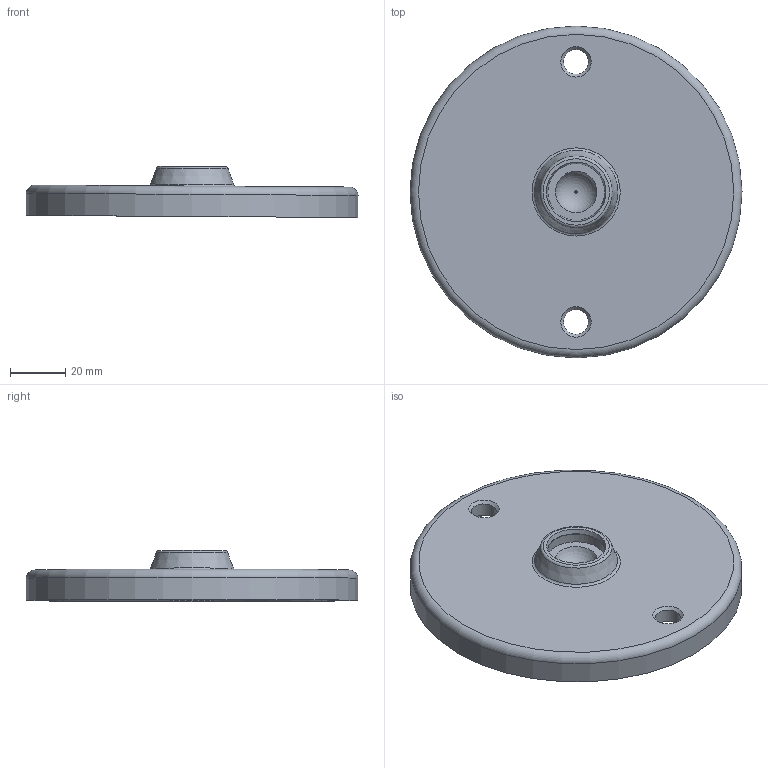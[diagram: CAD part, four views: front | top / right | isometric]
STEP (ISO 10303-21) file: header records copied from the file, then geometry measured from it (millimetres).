
FILE_DESCRIPTION(('STEP AP203'), '1');
FILE_NAME('À00016.6120', '', ('UNSPECIFIED'), ('UNSPECIFIED'), 'C3D Converter', 'C3D Toolkit', '');
FILE_SCHEMA(('CONFIG_CONTROL_DESIGN'));
Length unit declared in the file: millimetre
Bounding box: 120.05 x 120 x 18.45 mm (x, y, z)
Volume: 77979.9 mm3; surface area: 28966 mm2
Topology: 1 solids, 1 shells, 25 faces, 43 edges, 26 vertices
Faces by surface type: plane 8, cylinder 6, cone 6, torus 5
Full cylindrical faces by diameter (mm): 9 x2, 15 x1, 21 x1, 110 x1, 120 x1
Entity records: 557 total; most frequent: DIRECTION 104, CARTESIAN_POINT 78, AXIS2_PLACEMENT_3D 52, EDGE_LOOP 52, ORIENTED_EDGE 52, FACE_OUTER_BOUND 34, EDGE_CURVE 26, VERTEX_POINT 26
